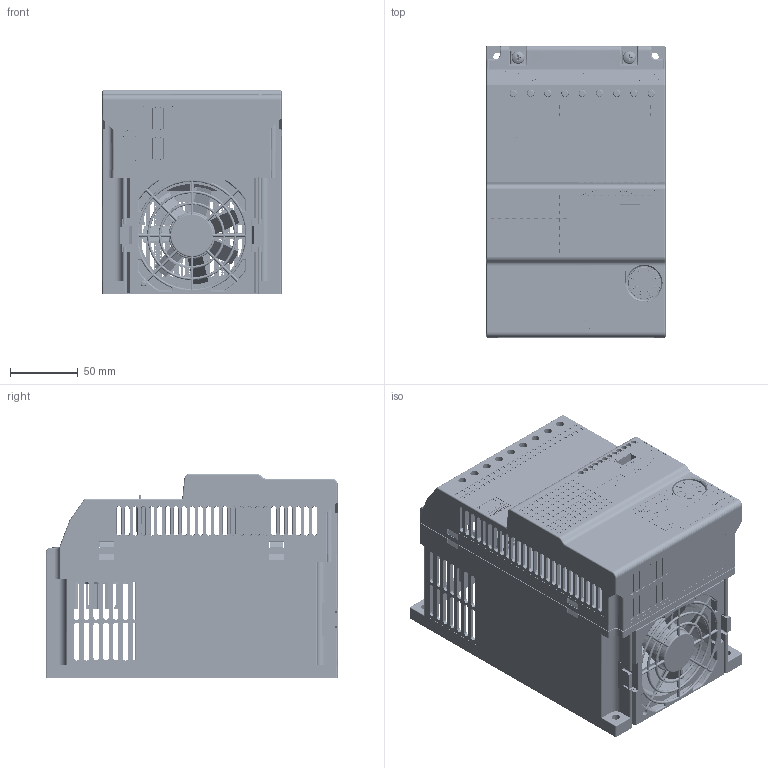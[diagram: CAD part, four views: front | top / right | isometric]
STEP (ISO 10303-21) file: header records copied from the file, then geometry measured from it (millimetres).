
FILE_DESCRIPTION(/* description */ (''),/* implementation_level */ '2;1');
FILE_NAME(/* name */ 'C:\Users\10338\Desktop\SC3-C组立图3D.stp',/* time_stamp */ '2022-12-29T10:12:13+08:00',/* author */ ('10338'),/* organization */ (''),/* preprocessor_version */ 'ST-DEVELOPER v17',/* originating_system */ 'Autodesk Inventor 2019',/* authorisation */ '');
FILE_SCHEMA (('AUTOMOTIVE_DESIGN { 1 0 10303 214 3 1 1 }'));
Products named in the file (42): SC3-C组立图3D; SC3-C塑胶底座20210401; 风扇_EE80252B1-0000-A99_SK603D00501D; SC3-C风扇盖210409; WJ116VK-12.7-07P; WJ116VK-12.7-04P; SC3 控制板组立; _X2_5F005173_X0__SS-22D38G2_SK591P06001; _X2_8FDE63A54EF6_X0__YH-55-05-5521-8P_SS980P11001; 22N8242-28C10B-01G-3.4-R4A-GR01; _X2_63926BCD_X0_; _X2_63929488_X0_; _X2_5F005173_X0__R126ECA-D1-8; _X2_8FDE63A54EF6_X0__p8552-14s10-01t; PU301 LED; DG125-5.0-12P-14-03AH; E1-5028AHR1; DTSM-65N-V-T-R; 控制板基板-0521; SC3-A旋钮帽; 泰庆继电器PJE-12052F; 机种铭板.000; 薄膜开关; SC3 overlay 上盖; SC3-C散热器210413; PCB端子_PCB-7_SK602D02101; PCB端子15.6; 螺丝_M3×5×16_SS980P08002; M5_S_W10_S0301510A; UNI 8839 A 5; NF E 25-514  Z Z 5 - 160 HV; UNI EN ISO 7045  H  (_X2_666E901A87BA7EB9_X0_) M5 x  10 - 4.8 - H; SMP-02V-BC; SMR-02B; M3×8_S0301309; NF E 25-510 CL 5 x 11_1; NF E 25-515  W W3_1; UNI EN ISO 7045  H  (普通螺纹) M3 x  
8 - 4.8 - H; SC3-C主回路铭板210727; CJCV-3 ...
Assembly tree (78 placements, depth 4):
  SC3-C组立图3D
    SC3-C塑胶底座20210401
    PCB端子15.6  x3
    风扇_EE80252B1-0000-A99_SK603D00501D
    SC3-C风扇盖210409
    WJ116VK-12.7-07P
    WJ116VK-12.7-04P
    SC3 控制板组立
      _X2_5F005173_X0__SS-22D38G2_SK591P06001  x2
      _X2_8FDE63A54EF6_X0__YH-55-05-5521-8P_SS980P11001
      22N8242-28C10B-01G-3.4-R4A-GR01
        _X2_63926BCD_X0_
        _X2_63929488_X0_  x24
      _X2_5F005173_X0__R126ECA-D1-8
      _X2_8FDE63A54EF6_X0__p8552-14s10-01t
      PU301 LED  x6
      DG125-5.0-12P-14-03AH
      E1-5028AHR1
      DTSM-65N-V-T-R  x5
      控制板基板-0521
      SC3-A旋钮帽
      泰庆继电器PJE-12052F
    机种铭板.000
    薄膜开关
    SC3 overlay 上盖
    SC3-C散热器210413
    PCB端子_PCB-7_SK602D02101  x2
    螺丝_M3×5×16_SS980P08002
    M5_S_W10_S0301510A  x2
      UNI 8839 A 5
      NF E 25-514  Z Z 5 - 160 HV
      UNI EN ISO 7045  H  (_X2_666E901A87BA7EB9_X0_) M5 x  10 - 4.8 - H
    SMP-02V-BC
    SMR-02B
    M3×8_S0301309
      NF E 25-510 CL 5 x 11_1
      NF E 25-515  W W3_1
      UNI EN ISO 7045  H  (普通螺纹) M3 x  
8 - 4.8 - H
    SC3-C主回路铭板210727
    CJCV-3
    SC3-C上盖-拔模产品-0811(1
)
    警语铭板
Bounding box: 132.1 x 215.5 x 150.5 mm (x, y, z)
Volume: 749941.1 mm3; surface area: 761986.2 mm2
Topology: 89 solids, 89 shells, 16367 faces, 44807 edges, 29657 vertices
Faces by surface type: plane 9513, cylinder 3594, bspline 2810, cone 304, torus 109, sphere 37
Full cylindrical faces by diameter (mm): 0.43 x3, 0.5 x1, 0.7 x8, 0.8 x5, 1 x4, 1.2 x1, 1.467 x1, 1.486 x1, 1.5 x4, 1.523 x1, 1.8 x4, 2 x5, 2.36 x2, 2.4 x1, 2.729 x1, 2.9 x1, 3 x17, 3.2 x6, 3.3 x8, 3.5 x7, 4 x1, 4.2 x7, 4.3 x8, 4.5 x1, 4.567 x2, 4.7 x3, 4.726 x1, 5 x7, 5.3 x2, 5.4 x7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
Entity records: 515551 total; most frequent: CARTESIAN_POINT 135833, ORIENTED_EDGE 83860, DIRECTION 69302, EDGE_CURVE 41930, LINE 27980, VECTOR 27980, VERTEX_POINT 27776, AXIS2_PLACEMENT_3D 20661
